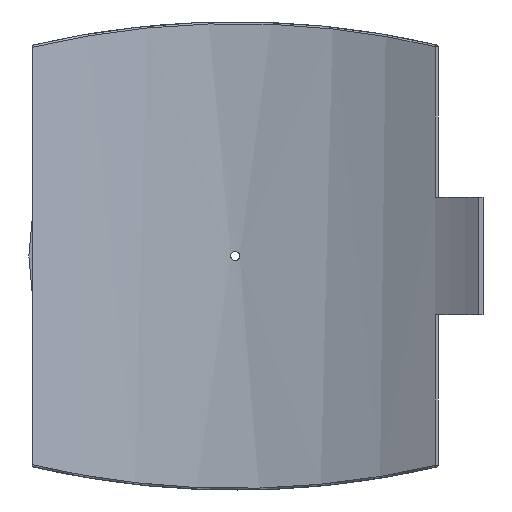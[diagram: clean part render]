
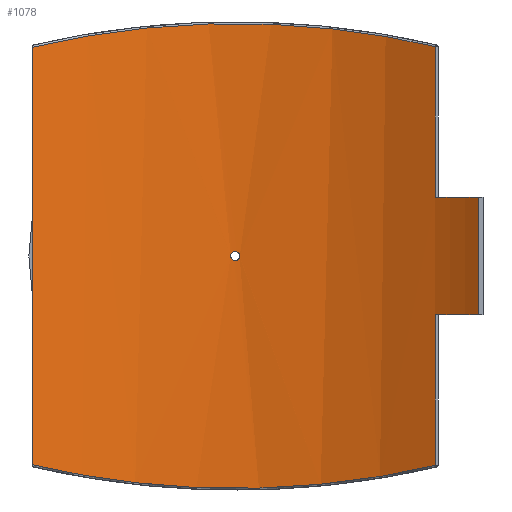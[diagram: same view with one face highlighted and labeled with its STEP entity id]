
A CAD part, front view. The second image highlights one B-rep face of the part: STEP entity #1078.
In plain terms, the highlighted cylindrical face has radius 450 mm (diameter 900 mm), a partial arc.
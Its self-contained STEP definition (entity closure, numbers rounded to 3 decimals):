
#55=FACE_BOUND('',#355,.T.);
#109=B_SPLINE_CURVE_WITH_KNOTS('',3,(#2213,#2214,#2215,#2216,#2217,#2218,
#2219,#2220,#2221,#2222),.UNSPECIFIED.,.F.,.F.,(4,1,1,1,1,1,1,4),(-54.757,
-47.842,-40.928,-34.013,-27.099,
-20.184,-13.27,-6.356),.UNSPECIFIED.);
#110=B_SPLINE_CURVE_WITH_KNOTS('',3,(#2231,#2232,#2233,#2234,#2235,#2236,
#2237,#2238,#2239,#2240),.UNSPECIFIED.,.F.,.F.,(4,1,1,1,1,1,1,4),(-50.439,
-43.524,-36.61,-29.695,-22.781,
-15.867,-8.952,-2.038),.UNSPECIFIED.);
#111=B_SPLINE_CURVE_WITH_KNOTS('',3,(#2243,#2244,#2245,#2246,#2247,#2248,
#2249,#2250,#2251,#2252),.UNSPECIFIED.,.F.,.F.,(4,2,2,2,4),(0.,0.196,
0.392,0.588,0.784),.UNSPECIFIED.);
#112=B_SPLINE_CURVE_WITH_KNOTS('',3,(#2253,#2254,#2255,#2256,#2257,#2258,
#2259,#2260,#2261,#2262,#2263,#2264,#2265,#2266,#2267,#2268,#2269,#2270,
#2271,#2272,#2273,#2274,#2275,#2276,#2277,#2278),.UNSPECIFIED.,.F.,.F.,
(4,2,2,2,2,2,2,2,2,2,2,2,4),(0.784,0.979,1.175,
1.371,1.567,1.763,1.959,2.155,
2.351,2.546,2.742,2.938,3.134),
 .UNSPECIFIED.);
#133=LINE('',#1615,#184);
#144=LINE('',#1902,#195);
#151=LINE('',#2227,#202);
#152=LINE('',#2230,#203);
#184=VECTOR('',#1292,10.);
#195=VECTOR('',#1331,10.);
#202=VECTOR('',#1368,10.);
#203=VECTOR('',#1371,10.);
#244=CYLINDRICAL_SURFACE('',#1175,450.);
#288=FACE_OUTER_BOUND('',#354,.T.);
#354=EDGE_LOOP('',(#839,#840,#841,#842,#843,#844,#845,#846));
#355=EDGE_LOOP('',(#847,#848));
#449=CIRCLE('',#1176,450.);
#450=CIRCLE('',#1177,450.);
#510=VERTEX_POINT('',#1606);
#513=VERTEX_POINT('',#1613);
#533=VERTEX_POINT('',#1895);
#536=VERTEX_POINT('',#1900);
#549=VERTEX_POINT('',#2199);
#550=VERTEX_POINT('',#2224);
#551=VERTEX_POINT('',#2226);
#552=VERTEX_POINT('',#2229);
#553=VERTEX_POINT('',#2241);
#554=VERTEX_POINT('',#2242);
#613=EDGE_CURVE('',#513,#510,#133,.T.);
#643=EDGE_CURVE('',#536,#533,#144,.T.);
#666=EDGE_CURVE('',#549,#536,#109,.T.);
#667=EDGE_CURVE('',#550,#513,#449,.T.);
#668=EDGE_CURVE('',#550,#551,#151,.T.);
#669=EDGE_CURVE('',#533,#551,#450,.T.);
#670=EDGE_CURVE('',#552,#549,#152,.T.);
#671=EDGE_CURVE('',#510,#552,#110,.T.);
#672=EDGE_CURVE('',#553,#554,#111,.T.);
#673=EDGE_CURVE('',#554,#553,#112,.T.);
#839=ORIENTED_EDGE('',*,*,#667,.F.);
#840=ORIENTED_EDGE('',*,*,#668,.T.);
#841=ORIENTED_EDGE('',*,*,#669,.F.);
#842=ORIENTED_EDGE('',*,*,#643,.F.);
#843=ORIENTED_EDGE('',*,*,#666,.F.);
#844=ORIENTED_EDGE('',*,*,#670,.F.);
#845=ORIENTED_EDGE('',*,*,#671,.F.);
#846=ORIENTED_EDGE('',*,*,#613,.F.);
#847=ORIENTED_EDGE('',*,*,#672,.T.);
#848=ORIENTED_EDGE('',*,*,#673,.T.);
#1078=ADVANCED_FACE('',(#288,#55),#244,.F.);
#1175=AXIS2_PLACEMENT_3D('',#2223,#1364,#1365);
#1176=AXIS2_PLACEMENT_3D('',#2225,#1366,#1367);
#1177=AXIS2_PLACEMENT_3D('',#2228,#1369,#1370);
#1292=DIRECTION('',(0.,0.,-1.));
#1331=DIRECTION('',(0.,0.,-1.));
#1364=DIRECTION('center_axis',(0.,0.,1.));
#1365=DIRECTION('ref_axis',(-1.,0.,0.));
#1366=DIRECTION('center_axis',(0.,0.,1.));
#1367=DIRECTION('ref_axis',(-0.612,-0.791,0.));
#1368=DIRECTION('',(0.,0.,1.));
#1369=DIRECTION('center_axis',(0.,0.,-1.));
#1370=DIRECTION('ref_axis',(-0.612,-0.791,0.));
#1371=DIRECTION('',(0.,0.,1.));
#1606=CARTESIAN_POINT('',(226.493,388.845,-236.913));
#1613=CARTESIAN_POINT('',(226.493,388.845,-66.25));
#1615=CARTESIAN_POINT('',(226.493,388.845,0.));
#1895=CARTESIAN_POINT('',(226.493,388.845,66.25));
#1900=CARTESIAN_POINT('',(226.493,388.845,236.913));
#1902=CARTESIAN_POINT('',(226.493,388.845,0.));
#2199=CARTESIAN_POINT('',(-229.5,387.078,236.206));
#2213=CARTESIAN_POINT('Ctrl Pts',(-229.5,387.078,236.206));
#2214=CARTESIAN_POINT('Ctrl Pts',(-210.157,398.547,240.784));
#2215=CARTESIAN_POINT('Ctrl Pts',(-169.602,418.667,249.155));
#2216=CARTESIAN_POINT('Ctrl Pts',(-104.394,439.516,258.277));
#2217=CARTESIAN_POINT('Ctrl Pts',(-36.321,450.297,263.133));
#2218=CARTESIAN_POINT('Ctrl Pts',(32.756,450.572,263.258));
#2219=CARTESIAN_POINT('Ctrl Pts',(100.927,440.325,258.638));
#2220=CARTESIAN_POINT('Ctrl Pts',(166.325,419.982,249.72));
#2221=CARTESIAN_POINT('Ctrl Pts',(207.053,400.169,241.451));
#2222=CARTESIAN_POINT('Ctrl Pts',(226.493,388.845,236.913));
#2223=CARTESIAN_POINT('Origin',(0.,0.,0.));
#2224=CARTESIAN_POINT('',(275.42,355.87,-66.25));
#2225=CARTESIAN_POINT('Origin',(0.,0.,
-66.25));
#2226=CARTESIAN_POINT('',(275.42,355.87,66.25));
#2227=CARTESIAN_POINT('',(275.42,355.87,0.));
#2228=CARTESIAN_POINT('Origin',(0.,0.,
66.25));
#2229=CARTESIAN_POINT('',(-229.5,387.078,-236.206));
#2230=CARTESIAN_POINT('',(-229.5,387.078,0.));
#2231=CARTESIAN_POINT('Ctrl Pts',(226.493,388.845,-236.913));
#2232=CARTESIAN_POINT('Ctrl Pts',(207.053,400.169,-241.451));
#2233=CARTESIAN_POINT('Ctrl Pts',(166.325,419.982,-249.72));
#2234=CARTESIAN_POINT('Ctrl Pts',(100.927,440.325,-258.638));
#2235=CARTESIAN_POINT('Ctrl Pts',(32.756,450.572,-263.258));
#2236=CARTESIAN_POINT('Ctrl Pts',(-36.321,450.297,-263.133));
#2237=CARTESIAN_POINT('Ctrl Pts',(-104.394,439.516,-258.277));
#2238=CARTESIAN_POINT('Ctrl Pts',(-169.602,418.667,-249.155));
#2239=CARTESIAN_POINT('Ctrl Pts',(-210.157,398.547,-240.784));
#2240=CARTESIAN_POINT('Ctrl Pts',(-229.5,387.078,-236.206));
#2241=CARTESIAN_POINT('',(5.2,449.97,0.));
#2242=CARTESIAN_POINT('',(0.,450.,-5.2));
#2243=CARTESIAN_POINT('Ctrl Pts',(5.2,449.97,0.));
#2244=CARTESIAN_POINT('Ctrl Pts',(5.2,449.97,-0.653));
#2245=CARTESIAN_POINT('Ctrl Pts',(5.07,449.972,-1.349));
#2246=CARTESIAN_POINT('Ctrl Pts',(4.539,449.977,-2.631));
#2247=CARTESIAN_POINT('Ctrl Pts',(4.139,449.981,-3.215));
#2248=CARTESIAN_POINT('Ctrl Pts',(3.215,449.989,-4.139));
#2249=CARTESIAN_POINT('Ctrl Pts',(2.631,449.993,-4.539));
#2250=CARTESIAN_POINT('Ctrl Pts',(1.349,449.998,-5.07));
#2251=CARTESIAN_POINT('Ctrl Pts',(0.653,450.,-5.2));
#2252=CARTESIAN_POINT('Ctrl Pts',(0.,450.,-5.2));
#2253=CARTESIAN_POINT('Ctrl Pts',(0.,450.,-5.2));
#2254=CARTESIAN_POINT('Ctrl Pts',(-0.653,450.,-5.2));
#2255=CARTESIAN_POINT('Ctrl Pts',(-1.349,449.998,-5.07));
#2256=CARTESIAN_POINT('Ctrl Pts',(-2.631,449.993,-4.539));
#2257=CARTESIAN_POINT('Ctrl Pts',(-3.215,449.989,-4.139));
#2258=CARTESIAN_POINT('Ctrl Pts',(-4.139,449.981,-3.215));
#2259=CARTESIAN_POINT('Ctrl Pts',(-4.539,449.977,-2.631));
#2260=CARTESIAN_POINT('Ctrl Pts',(-5.07,449.972,-1.349));
#2261=CARTESIAN_POINT('Ctrl Pts',(-5.2,449.97,-0.653));
#2262=CARTESIAN_POINT('Ctrl Pts',(-5.2,449.97,0.653));
#2263=CARTESIAN_POINT('Ctrl Pts',(-5.07,449.972,1.349));
#2264=CARTESIAN_POINT('Ctrl Pts',(-4.539,449.977,2.631));
#2265=CARTESIAN_POINT('Ctrl Pts',(-4.139,449.981,3.215));
#2266=CARTESIAN_POINT('Ctrl Pts',(-3.215,449.989,4.139));
#2267=CARTESIAN_POINT('Ctrl Pts',(-2.631,449.993,4.539));
#2268=CARTESIAN_POINT('Ctrl Pts',(-1.349,449.998,5.07));
#2269=CARTESIAN_POINT('Ctrl Pts',(-0.653,450.,5.2));
#2270=CARTESIAN_POINT('Ctrl Pts',(0.653,450.,5.2));
#2271=CARTESIAN_POINT('Ctrl Pts',(1.349,449.998,5.07));
#2272=CARTESIAN_POINT('Ctrl Pts',(2.631,449.993,4.539));
#2273=CARTESIAN_POINT('Ctrl Pts',(3.215,449.989,4.139));
#2274=CARTESIAN_POINT('Ctrl Pts',(4.139,449.981,3.215));
#2275=CARTESIAN_POINT('Ctrl Pts',(4.539,449.977,2.631));
#2276=CARTESIAN_POINT('Ctrl Pts',(5.07,449.972,1.349));
#2277=CARTESIAN_POINT('Ctrl Pts',(5.2,449.97,0.653));
#2278=CARTESIAN_POINT('Ctrl Pts',(5.2,449.97,0.));
